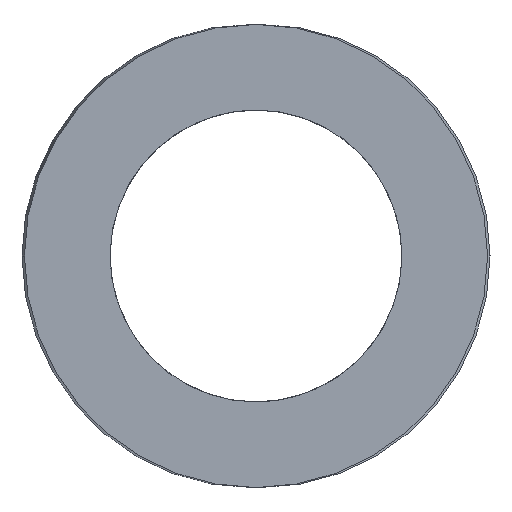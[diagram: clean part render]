
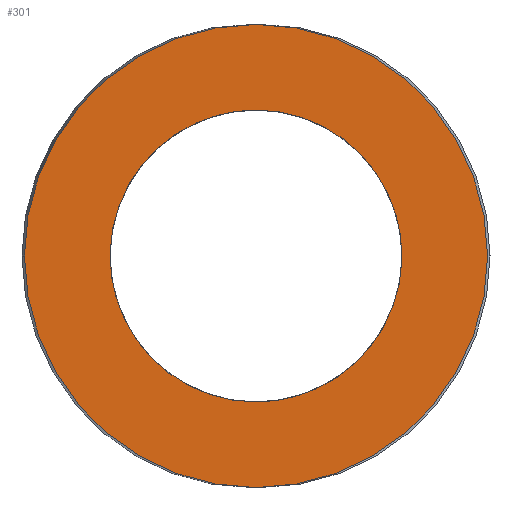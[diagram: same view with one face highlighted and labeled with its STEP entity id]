
A CAD part, left-side view. The second image highlights one B-rep face of the part: STEP entity #301.
In plain terms, the highlighted planar face has unit normal (-1, 0, 0).
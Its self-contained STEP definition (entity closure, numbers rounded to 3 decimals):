
#63=CARTESIAN_POINT('Vertex',(0.,31.1,0.)) ;
#77=CARTESIAN_POINT('Vertex',(0.,-31.1,0.)) ;
#80=CARTESIAN_POINT('Axis2P3D Location',(0.,0.,0.)) ;
#97=CARTESIAN_POINT('Axis2P3D Location',(0.,0.,0.)) ;
#232=CARTESIAN_POINT('Axis2P3D Location',(0.,15.55,0.)) ;
#242=CARTESIAN_POINT('Control Point',(0.,0.,-19.6)) ;
#243=CARTESIAN_POINT('Control Point',(0.,1.952,-19.6)) ;
#244=CARTESIAN_POINT('Control Point',(0.,3.904,-19.357)) ;
#245=CARTESIAN_POINT('Control Point',(0.,5.816,-18.871)) ;
#246=CARTESIAN_POINT('Control Point',(0.,9.478,-17.433)) ;
#247=CARTESIAN_POINT('Control Point',(0.,12.675,-15.142)) ;
#248=CARTESIAN_POINT('Control Point',(0.,14.123,-13.802)) ;
#249=CARTESIAN_POINT('Control Point',(0.,16.653,-10.789)) ;
#250=CARTESIAN_POINT('Control Point',(0.,18.368,-7.249)) ;
#251=CARTESIAN_POINT('Control Point',(0.,19.,-5.38)) ;
#252=CARTESIAN_POINT('Control Point',(0.,19.784,-1.525)) ;
#253=CARTESIAN_POINT('Control Point',(0.,19.6,2.405)) ;
#254=CARTESIAN_POINT('Control Point',(0.,19.262,4.348)) ;
#255=CARTESIAN_POINT('Control Point',(0.,18.11,8.11)) ;
#256=CARTESIAN_POINT('Control Point',(0.,16.071,11.474)) ;
#257=CARTESIAN_POINT('Control Point',(0.,14.846,13.02)) ;
#258=CARTESIAN_POINT('Control Point',(0.,12.037,15.775)) ;
#259=CARTESIAN_POINT('Control Point',(0.,8.639,17.757)) ;
#260=CARTESIAN_POINT('Control Point',(0.,6.824,18.53)) ;
#261=CARTESIAN_POINT('Control Point',(0.,4.349,19.236)) ;
#262=CARTESIAN_POINT('Control Point',(0.,1.809,19.53)) ;
#263=CARTESIAN_POINT('Control Point',(0.,1.206,19.577)) ;
#264=CARTESIAN_POINT('Control Point',(0.,0.603,19.6)) ;
#265=CARTESIAN_POINT('Control Point',(0.,0.,19.6)) ;
#266=CARTESIAN_POINT('Vertex',(0.,0.,-19.6)) ;
#268=CARTESIAN_POINT('Vertex',(0.,0.,19.6)) ;
#272=CARTESIAN_POINT('Control Point',(0.,0.,19.6)) ;
#273=CARTESIAN_POINT('Control Point',(0.,-1.952,19.6)) ;
#274=CARTESIAN_POINT('Control Point',(0.,-3.904,19.357)) ;
#275=CARTESIAN_POINT('Control Point',(0.,-5.816,18.871)) ;
#276=CARTESIAN_POINT('Control Point',(0.,-9.478,17.433)) ;
#277=CARTESIAN_POINT('Control Point',(0.,-12.675,15.142)) ;
#278=CARTESIAN_POINT('Control Point',(0.,-14.123,13.802)) ;
#279=CARTESIAN_POINT('Control Point',(0.,-16.653,10.789)) ;
#280=CARTESIAN_POINT('Control Point',(0.,-18.368,7.249)) ;
#281=CARTESIAN_POINT('Control Point',(0.,-19.,5.38)) ;
#282=CARTESIAN_POINT('Control Point',(0.,-19.784,1.525)) ;
#283=CARTESIAN_POINT('Control Point',(0.,-19.6,-2.405)) ;
#284=CARTESIAN_POINT('Control Point',(0.,-19.262,-4.348)) ;
#285=CARTESIAN_POINT('Control Point',(0.,-18.11,-8.11)) ;
#286=CARTESIAN_POINT('Control Point',(0.,-16.071,-11.474)) ;
#287=CARTESIAN_POINT('Control Point',(0.,-14.846,-13.02)) ;
#288=CARTESIAN_POINT('Control Point',(0.,-12.037,-15.775)) ;
#289=CARTESIAN_POINT('Control Point',(0.,-8.639,-17.757)) ;
#290=CARTESIAN_POINT('Control Point',(0.,-6.824,-18.53)) ;
#291=CARTESIAN_POINT('Control Point',(0.,-4.349,-19.236)) ;
#292=CARTESIAN_POINT('Control Point',(0.,-1.809,-19.53)) ;
#293=CARTESIAN_POINT('Control Point',(0.,-1.206,-19.577)) ;
#294=CARTESIAN_POINT('Control Point',(0.,-0.603,-19.6)) ;
#295=CARTESIAN_POINT('Control Point',(0.,0.,-19.6)) ;
#81=DIRECTION('Axis2P3D Direction',(1.,-0.,0.)) ;
#98=DIRECTION('Axis2P3D Direction',(1.,-0.,0.)) ;
#233=DIRECTION('Axis2P3D Direction',(-1.,0.,0.)) ;
#234=DIRECTION('Axis2P3D XDirection',(0.,1.,0.)) ;
#82=AXIS2_PLACEMENT_3D('Circle Axis2P3D',#80,#81,$) ;
#99=AXIS2_PLACEMENT_3D('Circle Axis2P3D',#97,#98,$) ;
#235=AXIS2_PLACEMENT_3D('Plane Axis2P3D',#232,#233,#234) ;
#238=ORIENTED_EDGE('',*,*,#84,.T.) ;
#239=ORIENTED_EDGE('',*,*,#101,.T.) ;
#298=ORIENTED_EDGE('',*,*,#270,.T.) ;
#299=ORIENTED_EDGE('',*,*,#296,.T.) ;
#300=FACE_BOUND('',#297,.T.) ;
#301=ADVANCED_FACE('392-B63-127',(#240,#300),#236,.T.) ;
#241=B_SPLINE_CURVE_WITH_KNOTS('',5,(#242,#243,#244,#245,#246,#247,#248,#249,#250,#251,#252,#253,#254,#255,#256,#257,#258,#259,#260,#261,#262,#263,#264,#265),.UNSPECIFIED.,.F.,.U.,(6,3,3,3,3,3,3,6),(0.,13.802,27.605,41.407,55.21,69.012,82.815,87.077),.UNSPECIFIED.) ;
#271=B_SPLINE_CURVE_WITH_KNOTS('',5,(#272,#273,#274,#275,#276,#277,#278,#279,#280,#281,#282,#283,#284,#285,#286,#287,#288,#289,#290,#291,#292,#293,#294,#295),.UNSPECIFIED.,.F.,.U.,(6,3,3,3,3,3,3,6),(0.,13.802,27.605,41.407,55.21,69.012,82.815,87.077),.UNSPECIFIED.) ;
#83=CIRCLE('generated circle',#82,31.1) ;
#100=CIRCLE('generated circle',#99,31.1) ;
#84=EDGE_CURVE('',#64,#78,#83,.F.) ;
#101=EDGE_CURVE('',#78,#64,#100,.F.) ;
#270=EDGE_CURVE('',#267,#269,#241,.T.) ;
#296=EDGE_CURVE('',#269,#267,#271,.T.) ;
#237=EDGE_LOOP('',(#238,#239)) ;
#297=EDGE_LOOP('',(#298,#299)) ;
#240=FACE_OUTER_BOUND('',#237,.T.) ;
#236=PLANE('Plane',#235) ;
#64=VERTEX_POINT('',#63) ;
#78=VERTEX_POINT('',#77) ;
#267=VERTEX_POINT('',#266) ;
#269=VERTEX_POINT('',#268) ;
